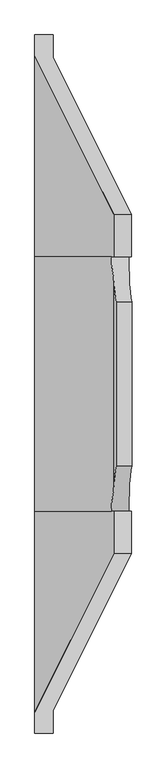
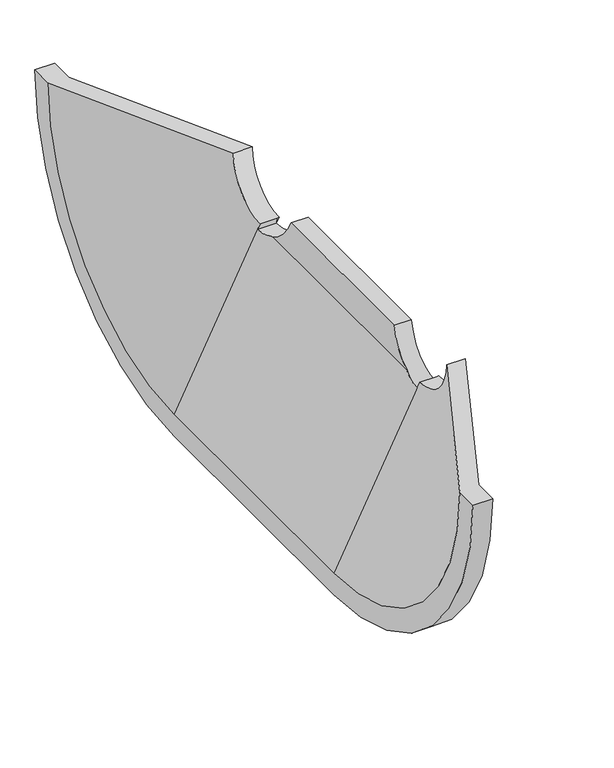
"""IFC4 building model written with IfcOpenShell, lengths in millimetres: proxy geometry, RiprapB1.sat."""

from ifc_helpers import new_model, si_unit, frame, origin, place, context, project, spatial, polyline, circle_curve, ellipse_curve, source, transform, mapped, element, save
from ifc_brep_helpers import plane_surface, cylinder_surface, revolved_surface, advanced_brep


def generic_models_9df2782e(model_context):
    return source(origin(), model_context, "Body", "AdvancedBrep", [
        advanced_brep(
        [(-1207.008, 4832.8128612, -914.4), (-1394.473971, 7467.6, -2788.947942), (-2416.8042503, 7467.6, -2788.947942), (-2287.5909367, 6295.1271858, -2530.5213149), (-2125.9691693, 4832.8128612, -914.4), (-1366.1230865, 7467.5999999, -2505.456), (-2275.0582793, 7467.5999999, -2505.456), (-2287.5909367, -6295.1271858, -2530.5213149), (-2416.8042503, -7467.6, -2788.947942), (-1394.473971, -7467.6, -2788.947942), (-1207.008, -4832.8128612, -914.4), (-2125.9691693, -4832.8128612, -914.4), (-2275.0582793, -7467.5999999, -2505.456), (-1366.1230865, -7467.5999999, -2505.456), (-6925.056, 7467.6, -11805.4514414), (-6925.056, -7467.6, -11805.4514414), (-1252.728, 7467.6, -2505.456), (-1252.728, 9973.056, 0.0), (-2275.0582793, 9973.056, 0.0), (-6925.056, 19273.0514414, 0.0), (-5858.256, 7467.6, -13024.6514414), (-6925.056, 7467.6, -13024.6514414), (-6925.056, 20492.2514414, 0.0), (-5858.256, 20492.2514414, 0.0), (-5858.256, 7467.6, -11716.512), (-5858.256, 19184.112, 0.0), (-6925.056, -7467.6, -13024.6514414), (-5858.256, -7467.6, -13024.6514414), (-5858.256, -20492.2514414, 0.0), (-6925.056, -20492.2514414, 0.0), (-6925.056, -19273.0514414, 0.0), (-2275.0582793, -9973.056, 0.0), (-1252.728, -7467.6, -2505.456), (-1252.728, -9973.056, 0.0), (-5858.256, -7467.6, -11716.512), (-5858.256, -19184.112, 0.0)],
        [
            (0, 1, ellipse_curve(frame((-1115.562548, 7467.5999991, -3e-07), z_axis=(0.9950366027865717, 0.0, -0.09950959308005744), x_axis=(-0.09950959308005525, 0.0, -0.9950366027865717)), 2802.8596474, 2788.9479417)),
            (1, 2),
            (2, 3, ellipse_curve(frame((-1022.3302795, 7467.5999991, -3e-07), z_axis=(-0.8944271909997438, 0.0, 0.4472135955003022), x_axis=(-0.447213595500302, 0.0, -0.8944271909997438)), 3118.1385916, 2788.9479417)),
            (3, 4, ellipse_curve(frame((-2034.5237173, 7467.5999991, -3e-07), z_axis=(-0.9950366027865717, 0.0, 0.09950959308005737), x_axis=(-0.09950959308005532, 0.0, -0.9950366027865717)), 2802.8596474, 2788.9479417)),
            (4, 0),
            (1, 5),
            (5, 6),
            (6, 2),
            (7, 8, ellipse_curve(frame((-1022.3302795, -7467.5999991, -3e-07), z_axis=(-0.8944271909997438, 0.0, 0.4472135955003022), x_axis=(-0.447213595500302, 0.0, -0.8944271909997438)), 3118.1385916, 2788.9479417)),
            (8, 9),
            (9, 10, ellipse_curve(frame((-1115.562548, -7467.5999991, -3e-07), z_axis=(0.9950366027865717, 0.0, -0.09950959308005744), x_axis=(-0.09950959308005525, 0.0, -0.9950366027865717)), 2802.8596474, 2788.9479417)),
            (10, 11),
            (11, 7, ellipse_curve(frame((-2034.5237173, -7467.5999991, -3e-07), z_axis=(-0.9950366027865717, 0.0, 0.09950959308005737), x_axis=(-0.09950959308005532, 0.0, -0.9950366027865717)), 2802.8596474, 2788.9479417)),
            (8, 12),
            (12, 13),
            (13, 9),
            (2, 14),
            (14, 15),
            (15, 8),
            (7, 3),
            (11, 4),
            (10, 0),
            (5, 16),
            (16, 17, circle_curve(frame((-1252.728, 7467.6, 0.0), z_axis=(1.0, 0.0, 0.0), x_axis=(0.0, 0.0, -1.0)), 2505.456)),
            (17, 18),
            (18, 6, circle_curve(frame((-2275.0582793, 7467.6, 0.0), z_axis=(-1.0, 0.0, 0.0), x_axis=(0.0, 0.0, -1.0)), 2505.456)),
            (18, 19),
            (19, 14, circle_curve(frame((-6925.056, 7467.6, 0.0), z_axis=(-1.0, 0.0, 0.0), x_axis=(0.0, 0.0, -1.0)), 11805.4514414)),
            (20, 21),
            (21, 22, circle_curve(frame((-6925.056, 7467.6, 0.0), z_axis=(1.0, 0.0, 0.0), x_axis=(0.0, 0.0, -1.0)), 13024.6514414)),
            (22, 23),
            (23, 20, circle_curve(frame((-5858.256, 7467.6, 0.0), z_axis=(-1.0, 0.0, 0.0), x_axis=(0.0, 0.0, -1.0)), 13024.6514414)),
            (16, 1),
            (1, 24),
            (24, 25, circle_curve(frame((-5858.256, 7467.6, 0.0), z_axis=(1.0, 0.0, 0.0), x_axis=(0.0, 0.0, -1.0)), 11716.512)),
            (25, 17),
            (25, 23),
            (22, 19),
            (26, 27),
            (27, 28, circle_curve(frame((-5858.256, -7467.6, 0.0), z_axis=(-1.0, 0.0, 0.0), x_axis=(0.0, 0.0, -1.0)), 13024.6514414)),
            (28, 29),
            (29, 26, circle_curve(frame((-6925.056, -7467.6, 0.0), z_axis=(1.0, 0.0, 0.0), x_axis=(0.0, 0.0, -1.0)), 13024.6514414)),
            (15, 30, circle_curve(frame((-6925.056, -7467.6, 0.0), z_axis=(-1.0, 0.0, 0.0), x_axis=(0.0, 0.0, -1.0)), 11805.4514414)),
            (30, 31),
            (31, 12, circle_curve(frame((-2275.0582793, -7467.6, 0.0), z_axis=(1.0, 0.0, 0.0), x_axis=(0.0, 0.0, -1.0)), 2505.456)),
            (32, 13),
            (31, 33),
            (33, 32, circle_curve(frame((-1252.728, -7467.6, 0.0), z_axis=(1.0, 0.0, 0.0), x_axis=(0.0, 0.0, -1.0)), 2505.456)),
            (34, 9),
            (9, 32),
            (33, 35),
            (35, 34, circle_curve(frame((-5858.256, -7467.6, 0.0), z_axis=(1.0, 0.0, 0.0), x_axis=(0.0, 0.0, -1.0)), 11716.512)),
            (30, 29),
            (28, 35),
            (26, 21),
            (20, 27),
            (24, 34),
            (1, 9),
        ],
        [
            revolved_surface(polyline([(-2416.804250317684, 4678.652057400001, -1.1854042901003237e-06), (372.14369131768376, 4678.652057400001, -1.1854042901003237e-06)]), (0.0, 7467.5999991, -3e-07), (-1.0, 0.0, 0.0)),
            plane_surface(frame((0.0, 7467.5999991, -3e-07), z_axis=(0.0, -1.0, -3.1746898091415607e-10), x_axis=(0.0, 3.1746898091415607e-10, -1.0))),
            revolved_surface(polyline([(-2416.804250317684, -7467.599999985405, -2788.947942), (372.14369131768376, -7467.599999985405, -2788.947942)]), (0.0, -7467.5999991, -3e-07), (-1.0, 0.0, 0.0)),
            plane_surface(frame((0.0, -7467.6, -2788.947942), z_axis=(0.0, 1.0, -3.1746898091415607e-10), x_axis=(0.0, 3.1746898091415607e-10, 1.0))),
            plane_surface(frame((-6925.056, 0.0, -11805.4514414), z_axis=(-0.8944271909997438, 0.0, 0.4472135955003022), x_axis=(0.4472135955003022, 0.0, 0.8944271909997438))),
            plane_surface(frame((-2287.5909367, 0.0, -2530.5213149), z_axis=(-0.9950366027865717, 0.0, 0.09950959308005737), x_axis=(0.09950959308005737, 0.0, 0.9950366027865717))),
            plane_surface(frame((-2125.9691693, 0.0, -914.4), z_axis=(0.0, 0.0, 1.0), x_axis=(1.0, 0.0, 0.0))),
            revolved_surface(polyline([(-1252.728, 7467.6, -2505.456), (-2275.0582793, 7467.6, -2505.456)]), (-1763.8931397, 7467.6, 0.0), (1.0, 0.0, 0.0)),
            revolved_surface(polyline([(-6925.056, 7467.6, -11805.4514414), (-2275.0582793, 7467.6, -2505.456)]), (-1022.3302793, 7467.6, 0.0), (-1.0, 0.0, 0.0)),
            cylinder_surface(frame((-6391.656, 7467.6, 0.0), z_axis=(1.0, 0.0, 0.0), x_axis=(0.0, 0.0, -1.0)), 13024.6514414),
            revolved_surface(polyline([(-1252.728, 7467.6, -2505.456), (-5858.256, 7467.6, -11716.512)]), (0.0, 7467.6, 0.0), (-1.0, 0.0, 0.0)),
            plane_surface(frame((-4088.892, 15232.6537207, 0.0), z_axis=(0.0, 0.0, 1.0), x_axis=(0.0, -1.0, 0.0))),
            plane_surface(frame((-4088.892, 7467.6, -7765.0537207), z_axis=(0.0, -1.0, 0.0), x_axis=(0.0, 0.0, 1.0))),
            cylinder_surface(frame((-6391.656, -7467.6, 0.0), z_axis=(-1.0, 0.0, 0.0), x_axis=(0.0, 0.0, -1.0)), 13024.6514414),
            revolved_surface(polyline([(-6925.056, -7467.6, -11805.4514414), (-2275.0582793, -7467.6, -2505.456)]), (-1022.3302793, -7467.6, 0.0), (-1.0, 0.0, 0.0)),
            revolved_surface(polyline([(-2275.0582793, -7467.6, -2505.456), (-1252.728, -7467.6, -2505.456)]), (-1763.8931397, -7467.6, 0.0), (-1.0, 0.0, 0.0)),
            revolved_surface(polyline([(-1252.728, -7467.6, -2505.456), (-5858.256, -7467.6, -11716.512)]), (0.0, -7467.6, 0.0), (-1.0, 0.0, 0.0)),
            plane_surface(frame((-4088.892, -15232.6537207, 0.0), z_axis=(0.0, 0.0, 1.0), x_axis=(0.0, -1.0, 0.0))),
            plane_surface(frame((-4088.892, -7467.6, -7765.0537207), z_axis=(0.0, 1.0, 0.0), x_axis=(0.0, 0.0, -1.0))),
            plane_surface(frame((-5858.256, 0.0, -13024.6514414), z_axis=(0.0, 0.0, -1.0), x_axis=(-1.0, 0.0, 0.0))),
            plane_surface(frame((-5858.256, 0.0, -11716.512), z_axis=(1.0, 0.0, 0.0), x_axis=(0.0, 0.0, -1.0))),
            plane_surface(frame((-1394.473971, 0.0, -2788.947942), z_axis=(0.8944271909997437, 0.0, -0.4472135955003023), x_axis=(-0.4472135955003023, 0.0, -0.8944271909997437))),
            plane_surface(frame((-1207.008, 0.0, -914.4), z_axis=(0.9950366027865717, 0.0, -0.09950959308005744), x_axis=(-0.09950959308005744, 0.0, -0.9950366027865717))),
            plane_surface(frame((-6925.056, 0.0, -13024.6514414), z_axis=(-1.0, 0.0, 0.0), x_axis=(0.0, 0.0, 1.0))),
        ],
        [
            (0, [[1, 2, 3, 4, 5]]),
            (1, [[6, 7, 8, -2]]),
            (2, [[9, 10, 11, 12, 13]]),
            (3, [[14, 15, 16, -10]]),
            (4, [[-3, 17, 18, 19, -9, 20]]),
            (5, [[-4, -20, -13, 21]]),
            (6, [[-5, -21, -12, 22]]),
            (7, [[-7, 23, 24, 25, 26]]),
            (8, [[-17, -8, -26, 27, 28]]),
            (9, [[29, 30, 31, 32]]),
            (10, [[33, 34, 35, 36, -24]]),
            (11, [[-36, 37, -31, 38, -27, -25]]),
            (12, [[-6, -33, -23]]),
            (13, [[39, 40, 41, 42]]),
            (14, [[-14, -19, 43, 44, 45]]),
            (15, [[46, -15, -45, 47, 48]]),
            (16, [[49, 50, -48, 51, 52]]),
            (17, [[-51, -47, -44, 53, -41, 54]]),
            (18, [[-16, -46, -50]]),
            (19, [[55, -29, 56, -39]]),
            (20, [[-56, -32, -37, -35, 57, -52, -54, -40]]),
            (21, [[-57, -34, 58, -49]]),
            (22, [[-1, -22, -11, -58]]),
            (23, [[-18, -28, -38, -30, -55, -42, -53, -43]]),
        ],
    ),
    ])


if __name__ == "__main__":
    model = new_model("IFC4")
    model_context = context("Model", 3, world=origin())
    ifc_project = project(units=[si_unit("LENGTHUNIT", "METRE", prefix="MILLI")], contexts=[model_context])
    site = spatial("IfcSite", under=ifc_project)
    building = spatial("IfcBuilding", under=site)
    placement = place(None, origin())
    generic_models_shape = generic_models_9df2782e(model_context)
    element("IfcBuildingElementProxy", 1, Name="RiprapB1.sat", ObjectType="RiprapB1.sat", at=placement, inside=building, context=model_context, shape_type="MappedRepresentation", body=[
        mapped(generic_models_shape, transform((0.0, 0.0, 0.0), x_axis=(1.0, 0.0, 0.0), y_axis=(0.0, 1.0, 0.0), z_axis=(0.0, 0.0, 1.0))),
    ])
    save(model, "model.ifc")
